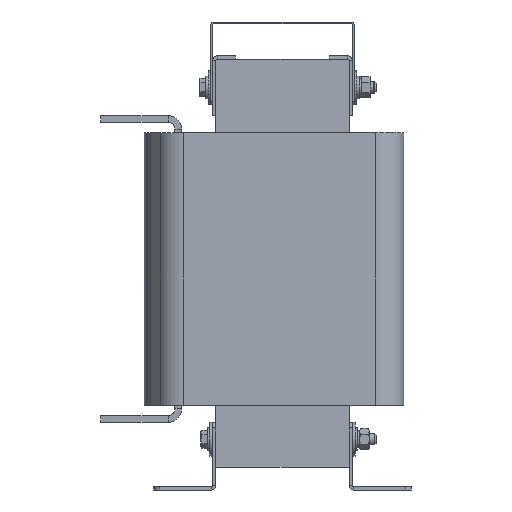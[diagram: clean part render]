
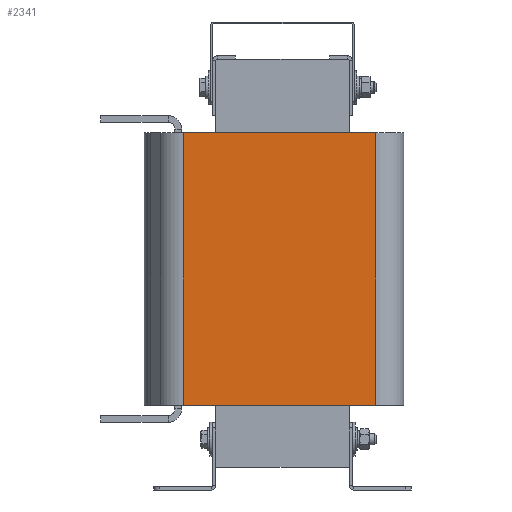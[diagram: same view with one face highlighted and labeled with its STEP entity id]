
A CAD part, left-side view. The second image highlights one B-rep face of the part: STEP entity #2341.
In plain terms, the highlighted planar face has unit normal (-1, 0, 0).
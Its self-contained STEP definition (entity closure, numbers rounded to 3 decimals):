
#2341=ADVANCED_FACE('',(#3435),#3437,.T.);
#3435=FACE_BOUND('',#3436,.T.);
#3436=EDGE_LOOP('',(#4685,#4686,#4687,#4688));
#3437=PLANE('',#3438);
#3438=AXIS2_PLACEMENT_3D('',#3439,#3440,#3441);
#3439=CARTESIAN_POINT('',(-53.75,85.575,0.));
#3440=DIRECTION('',(-1.,0.,0.));
#3441=DIRECTION('',(0.,-1.,0.));
#4685=ORIENTED_EDGE('',*,*,#5284,.T.);
#4686=ORIENTED_EDGE('',*,*,#5320,.T.);
#4687=ORIENTED_EDGE('',*,*,#5289,.F.);
#4688=ORIENTED_EDGE('',*,*,#5309,.F.);
#5284=EDGE_CURVE('',#5769,#5789,#5791,.T.);
#5289=EDGE_CURVE('',#5800,#5801,#5802,.T.);
#5309=EDGE_CURVE('',#5769,#5800,#5836,.T.);
#5320=EDGE_CURVE('',#5789,#5801,#5847,.T.);
#5769=VERTEX_POINT('',#6741);
#5789=VERTEX_POINT('',#6786);
#5791=LINE('',#6791,#6792);
#5800=VERTEX_POINT('',#6810);
#5801=VERTEX_POINT('',#6811);
#5802=LINE('',#6812,#6813);
#5836=LINE('',#6892,#6893);
#5847=LINE('',#6925,#6926);
#6741=CARTESIAN_POINT('',(-53.75,85.575,0.));
#6786=CARTESIAN_POINT('',(-53.75,-85.,0.));
#6791=CARTESIAN_POINT('',(-53.75,85.575,0.));
#6792=VECTOR('',#6793,1.);
#6793=DIRECTION('',(0.,-1.,0.));
#6810=CARTESIAN_POINT('',(-53.75,85.575,242.));
#6811=CARTESIAN_POINT('',(-53.75,-85.,242.));
#6812=CARTESIAN_POINT('',(-53.75,85.575,242.));
#6813=VECTOR('',#6814,1.);
#6814=DIRECTION('',(0.,-1.,0.));
#6892=CARTESIAN_POINT('',(-53.75,85.575,0.));
#6893=VECTOR('',#6894,1.);
#6894=DIRECTION('',(0.,0.,1.));
#6925=CARTESIAN_POINT('',(-53.75,-85.,0.));
#6926=VECTOR('',#6927,1.);
#6927=DIRECTION('',(0.,0.,1.));
